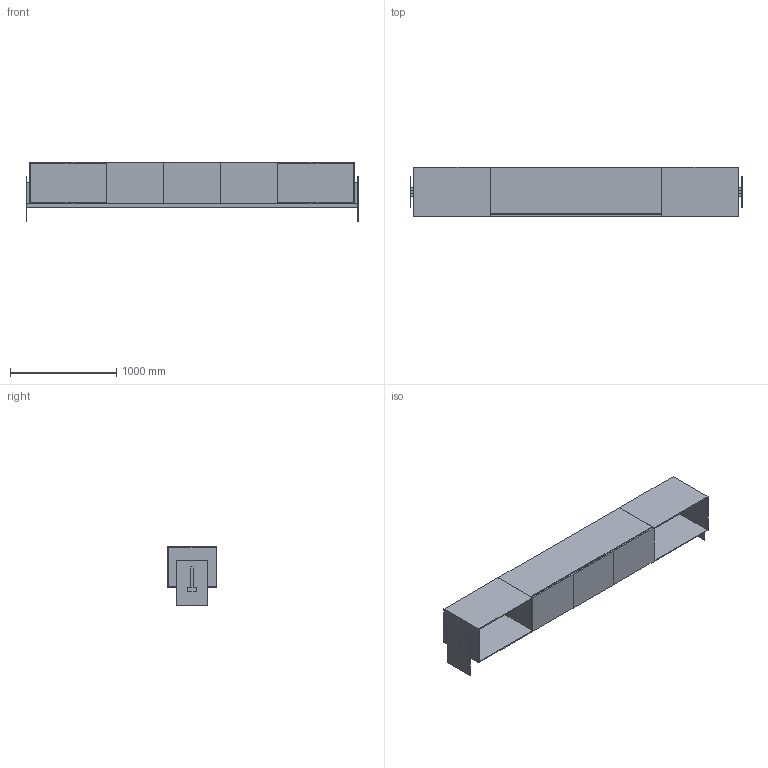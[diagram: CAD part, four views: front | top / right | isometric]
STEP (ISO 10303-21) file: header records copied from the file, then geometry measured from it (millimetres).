
FILE_DESCRIPTION(/* description */ (''),/* implementation_level */ '2;1');
FILE_NAME(/* name */ 'FYG7M3~6',/* time_stamp */ '2024-07-04T11:27:24+02:00',/* author */ (''),/* organization */ (''),/* preprocessor_version */ 'ST-DEVELOPER v15',/* originating_system */ '',/* authorisation */ '');
FILE_SCHEMA (('AUTOMOTIVE_DESIGN'));
Length unit declared in the file: centimetre
Products named in the file (1): Document
Bounding box: 3132 x 462.3 x 560 mm (x, y, z)
Volume: 95201454.8 mm3; surface area: 12099495.9 mm2
Topology: 11 solids, 11 shells, 92 faces, 204 edges, 136 vertices
Faces by surface type: plane 92
Entity records: 2290 total; most frequent: CARTESIAN_POINT 638, ORIENTED_EDGE 408, EDGE_CURVE 204, B_SPLINE_CURVE_WITH_KNOTS 204, VERTEX_POINT 136, DIRECTION 96, EDGE_LOOP 94, AXIS2_PLACEMENT_3D 94
